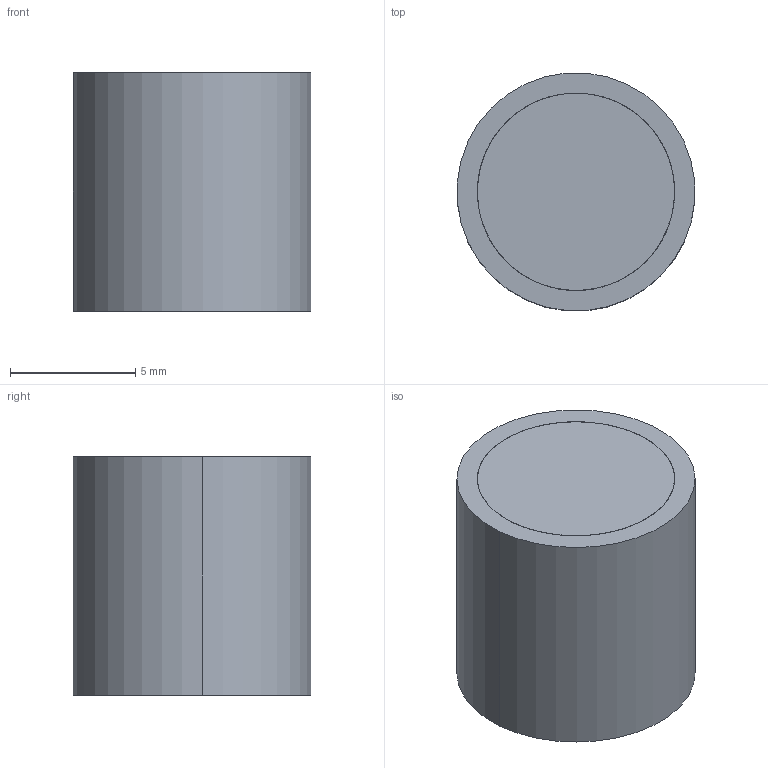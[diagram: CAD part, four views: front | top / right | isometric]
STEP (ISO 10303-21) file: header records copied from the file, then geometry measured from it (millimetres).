
FILE_DESCRIPTION (( 'STEP AP203' ), '1' );
FILE_NAME ('ABS3737.STEP', '2018-08-02T13:16:03', ( '' ), ( '' ), 'SwSTEP 2.0', 'SolidWorks 2015', '' );
FILE_SCHEMA (( 'CONFIG_CONTROL_DESIGN' ));
Length unit declared in the file: inch
Products named in the file (1): ABS3737
Bounding box: 9.49 x 9.49 x 9.53 mm (x, y, z)
Volume: 678.7 mm3; surface area: 900.3 mm2
Topology: 2 solids, 2 shells, 10 faces, 18 edges, 12 vertices
Faces by surface type: cylinder 6, plane 4
Entity records: 335 total; most frequent: DIRECTION 52, CARTESIAN_POINT 41, ORIENTED_EDGE 36, AXIS2_PLACEMENT_3D 23, EDGE_CURVE 18, EDGE_LOOP 12, VERTEX_POINT 12, CIRCLE 12
